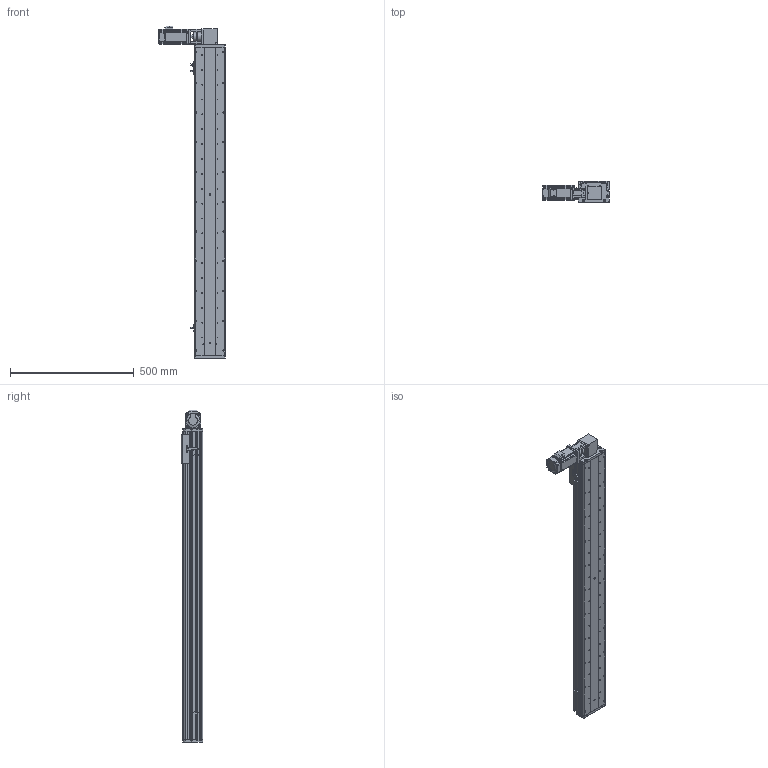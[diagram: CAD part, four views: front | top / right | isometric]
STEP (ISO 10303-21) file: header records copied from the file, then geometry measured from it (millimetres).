
FILE_DESCRIPTION (( 'STEP AP214' ), '1' );
FILE_NAME ('KSD125B-S1050-MRT-CM.STEP', '2017-08-07T07:36:44', ( '微软用户' ), ( '微软中国' ), 'SwSTEP 2.0', 'SolidWorks 2014', '' );
FILE_SCHEMA (( 'AUTOMOTIVE_DESIGN' ));
Length unit declared in the file: millimetre
Products named in the file (16): KSD125模组1050行程同步带-防尘盖; 125模组1050行程同步带-底板; MHMD042G1CA_2_03; KSD125模组同步带-防撞垫2; CS-34X32-10X14; 100遵鎮湛假蚾啣1 ; 覜茼え68遵圉猾敕; U倰嫖萇假蚾璃; U倰嫖萇EEㄜSX672; KSD125模组同步带-防撞垫1; 100宽安装板同步带带电机座400W,86; 100宽马达安装板同步带右; 前端板-125宽模组同步带; 125模组同步带-尾端板1; KSD125模组同步带-滑动座1; KSD125B-S1050-MRT-CM
Assembly tree (19 placements, depth 2):
  KSD125B-S1050-MRT-CM
    KSD125模组同步带-滑动座1
    125模组同步带-尾端板1
    前端板-125宽模组同步带
    100宽马达安装板同步带右
    100宽安装板同步带带电机座400W,86
    KSD125模组同步带-防撞垫1
    U倰嫖萇EEㄜSX672  x3
    U倰嫖萇假蚾璃  x3
    覜茼え68遵圉猾敕
    100遵鎮湛假蚾啣1 
    CS-34X32-10X14
    KSD125模组同步带-防撞垫2
    MHMD042G1CA_2_03
    125模组1050行程同步带-底板
    KSD125模组1050行程同步带-防尘盖
Bounding box: 269 x 86 x 1339 mm (x, y, z)
Volume: 4042003.6 mm3; surface area: 1330534 mm2
Topology: 18 solids, 21 shells, 1728 faces, 4960 edges, 3272 vertices
Faces by surface type: cylinder 917, plane 708, cone 81, bspline 22
Entity records: 60984 total; most frequent: CARTESIAN_POINT 12314, DIRECTION 8935, ORIENTED_EDGE 8440, EDGE_CURVE 4298, AXIS2_PLACEMENT_3D 3333, VERTEX_POINT 2864, VECTOR 2269, LINE 2269
